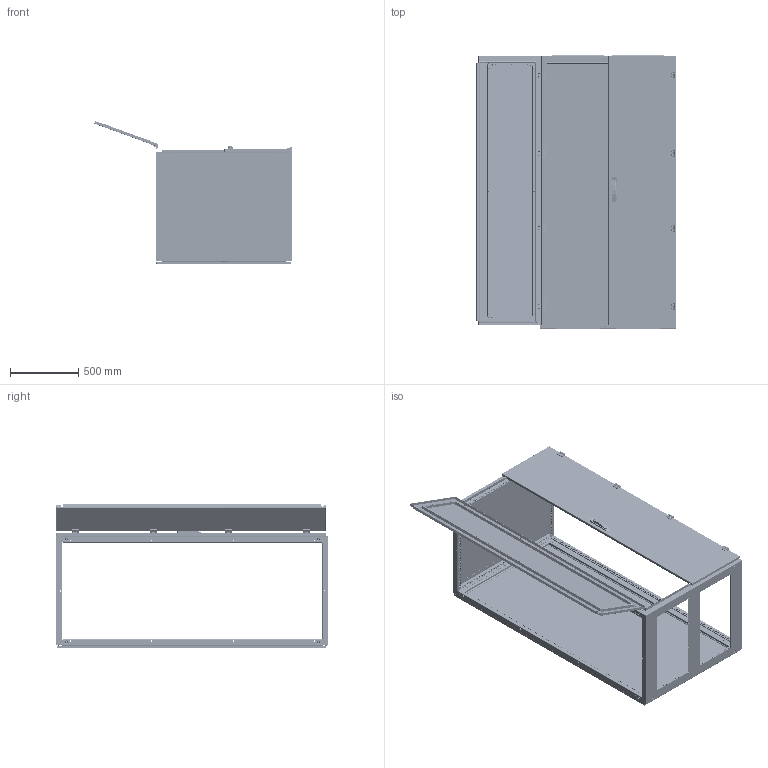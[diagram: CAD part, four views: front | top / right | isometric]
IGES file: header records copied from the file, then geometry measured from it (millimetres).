
Start section: SolidWorks IGES file using analytic representation for surfaces
Global section: file name: U:\14_RD\05_Technical_office\04_Office\Hrdinova\3D modely - IGES\Distri\QA201008.IGS; native system: SolidWorks 2011; preprocessor: SolidWorks 2011; author: adhrja3; date: 170613.085538; units: millimetre
Bounding box: 1468.78 x 2004.5 x 1062.7 mm (x, y, z)
Surface area: 17358955.6 mm2 (no closed solid volume)
Topology: 0 solids, 0 shells, 9331 faces, 157910 edges, 157582 vertices
Faces by surface type: bspline 4892, revolution 4439
